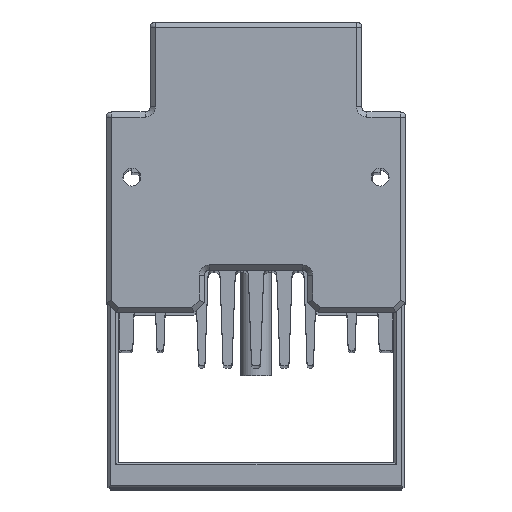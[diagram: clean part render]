
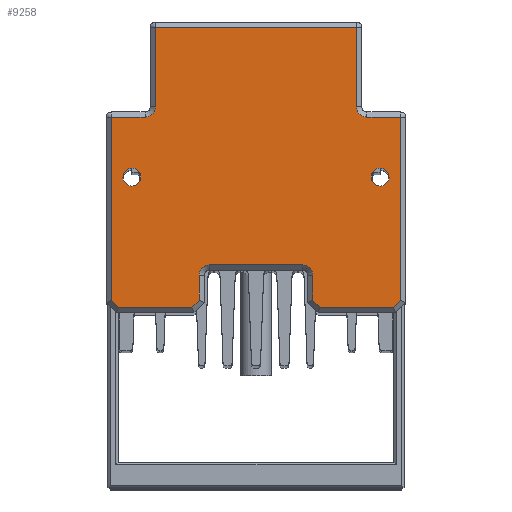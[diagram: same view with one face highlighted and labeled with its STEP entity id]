
A CAD part, top view. The second image highlights one B-rep face of the part: STEP entity #9258.
In plain terms, the highlighted planar face has unit normal (0, 0, 1).
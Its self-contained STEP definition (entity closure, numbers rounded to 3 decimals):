
#2973=DIRECTION('',(0.,1.,0.));
#2974=VECTOR('',#2973,15.4);
#2975=CARTESIAN_POINT('',(19.45,12.1,135.));
#2976=LINE('',#2975,#2974);
#2977=CARTESIAN_POINT('',(21.45,12.1,135.));
#2978=DIRECTION('',(0.,0.,-1.));
#2979=DIRECTION('',(0.,-1.,0.));
#2980=AXIS2_PLACEMENT_3D('',#2977,#2978,#2979);
#2982=DIRECTION('',(-1.,0.,0.));
#2983=VECTOR('',#2982,6.55);
#2984=CARTESIAN_POINT('',(28.,10.1,135.));
#2985=LINE('',#2984,#2983);
#2986=DIRECTION('',(0.,1.,0.));
#2987=VECTOR('',#2986,35.438);
#2988=CARTESIAN_POINT('',(28.,-25.338,135.));
#2989=LINE('',#2988,#2987);
#2990=DIRECTION('',(0.707,0.707,0.));
#2991=VECTOR('',#2990,2.);
#2992=CARTESIAN_POINT('',(26.586,-26.753,135.));
#2993=LINE('',#2992,#2991);
#2994=DIRECTION('',(1.,0.,0.));
#2995=VECTOR('',#2994,14.172);
#2996=CARTESIAN_POINT('',(12.414,-26.753,135.));
#2997=LINE('',#2996,#2995);
#2998=DIRECTION('',(0.707,-0.707,0.));
#2999=VECTOR('',#2998,2.);
#3000=CARTESIAN_POINT('',(11.,-25.338,135.));
#3001=LINE('',#3000,#2999);
#3002=DIRECTION('',(0.,-1.,0.));
#3003=VECTOR('',#3002,4.836);
#3004=CARTESIAN_POINT('',(11.,-20.503,135.));
#3005=LINE('',#3004,#3003);
#3006=CARTESIAN_POINT('',(9.,-20.503,135.));
#3007=DIRECTION('',(0.,0.,-1.));
#3008=DIRECTION('',(0.,1.,0.));
#3009=AXIS2_PLACEMENT_3D('',#3006,#3007,#3008);
#3011=DIRECTION('',(1.,0.,0.));
#3012=VECTOR('',#3011,18.);
#3013=CARTESIAN_POINT('',(-9.,-18.503,
135.));
#3014=LINE('',#3013,#3012);
#3015=CARTESIAN_POINT('',(-9.,-20.503,135.));
#3016=DIRECTION('',(0.,0.,-1.));
#3017=DIRECTION('',(-1.,0.,0.));
#3018=AXIS2_PLACEMENT_3D('',#3015,#3016,#3017);
#3020=DIRECTION('',(0.,1.,0.));
#3021=VECTOR('',#3020,4.836);
#3022=CARTESIAN_POINT('',(-11.,-25.338,135.));
#3023=LINE('',#3022,#3021);
#3024=DIRECTION('',(0.707,0.707,0.));
#3025=VECTOR('',#3024,2.);
#3026=CARTESIAN_POINT('',(-12.414,-26.753,135.));
#3027=LINE('',#3026,#3025);
#3028=DIRECTION('',(1.,0.,0.));
#3029=VECTOR('',#3028,14.172);
#3030=CARTESIAN_POINT('',(-26.586,-26.753,135.));
#3031=LINE('',#3030,#3029);
#3032=DIRECTION('',(0.707,-0.707,0.));
#3033=VECTOR('',#3032,2.);
#3034=CARTESIAN_POINT('',(-28.,-25.338,135.));
#3035=LINE('',#3034,#3033);
#3036=DIRECTION('',(0.,-1.,0.));
#3037=VECTOR('',#3036,35.438);
#3038=CARTESIAN_POINT('',(-28.,10.1,135.));
#3039=LINE('',#3038,#3037);
#3040=DIRECTION('',(-1.,0.,0.));
#3041=VECTOR('',#3040,6.55);
#3042=CARTESIAN_POINT('',(-21.45,10.1,135.));
#3043=LINE('',#3042,#3041);
#3044=CARTESIAN_POINT('',(-21.45,12.1,135.));
#3045=DIRECTION('',(0.,0.,-1.));
#3046=DIRECTION('',(1.,0.,0.));
#3047=AXIS2_PLACEMENT_3D('',#3044,#3045,#3046);
#3049=DIRECTION('',(0.,-1.,0.));
#3050=VECTOR('',#3049,15.4);
#3051=CARTESIAN_POINT('',(-19.45,27.5,135.));
#3052=LINE('',#3051,#3050);
#3053=DIRECTION('',(-1.,0.,0.));
#3054=VECTOR('',#3053,38.899);
#3055=CARTESIAN_POINT('',(19.45,27.5,135.));
#3056=LINE('',#3055,#3054);
#3057=CARTESIAN_POINT('',(-24.,-1.5,135.));
#3058=DIRECTION('',(0.,0.,1.));
#3059=DIRECTION('',(-1.,0.,0.));
#3060=AXIS2_PLACEMENT_3D('',#3057,#3058,#3059);
#3062=CARTESIAN_POINT('',(-24.,-1.5,135.));
#3063=DIRECTION('',(0.,0.,1.));
#3064=DIRECTION('',(1.,0.,0.));
#3065=AXIS2_PLACEMENT_3D('',#3062,#3063,#3064);
#3067=CARTESIAN_POINT('',(24.,-1.5,135.));
#3068=DIRECTION('',(0.,0.,1.));
#3069=DIRECTION('',(-1.,0.,0.));
#3070=AXIS2_PLACEMENT_3D('',#3067,#3068,#3069);
#3072=CARTESIAN_POINT('',(24.,-1.5,135.));
#3073=DIRECTION('',(0.,0.,1.));
#3074=DIRECTION('',(1.,0.,0.));
#3075=AXIS2_PLACEMENT_3D('',#3072,#3073,#3074);
#4286=CARTESIAN_POINT('',(19.45,12.1,135.));
#4287=CARTESIAN_POINT('',(19.45,27.5,135.));
#4288=VERTEX_POINT('',#4286);
#4289=VERTEX_POINT('',#4287);
#4292=CARTESIAN_POINT('',(21.45,10.1,135.));
#4293=VERTEX_POINT('',#4292);
#4296=CARTESIAN_POINT('',(28.,10.1,135.));
#4297=VERTEX_POINT('',#4296);
#4302=CARTESIAN_POINT('',(28.,-25.338,135.));
#4303=VERTEX_POINT('',#4302);
#4308=CARTESIAN_POINT('',(26.586,-26.753,135.));
#4309=VERTEX_POINT('',#4308);
#4312=CARTESIAN_POINT('',(12.414,-26.753,135.));
#4313=VERTEX_POINT('',#4312);
#4316=CARTESIAN_POINT('',(11.,-25.338,135.));
#4317=VERTEX_POINT('',#4316);
#4320=CARTESIAN_POINT('',(11.,-20.503,135.));
#4321=VERTEX_POINT('',#4320);
#4322=CARTESIAN_POINT('',(9.,-18.503,135.));
#4323=VERTEX_POINT('',#4322);
#4326=CARTESIAN_POINT('',(-9.,-18.503,
135.));
#4327=VERTEX_POINT('',#4326);
#4330=CARTESIAN_POINT('',(-11.,-20.503,135.));
#4331=VERTEX_POINT('',#4330);
#4334=CARTESIAN_POINT('',(-11.,-25.338,135.));
#4335=VERTEX_POINT('',#4334);
#4340=CARTESIAN_POINT('',(-12.414,-26.753,135.));
#4341=VERTEX_POINT('',#4340);
#4344=CARTESIAN_POINT('',(-26.586,-26.753,135.));
#4345=VERTEX_POINT('',#4344);
#4348=CARTESIAN_POINT('',(-28.,-25.338,135.));
#4349=VERTEX_POINT('',#4348);
#4350=CARTESIAN_POINT('',(-19.45,27.5,135.));
#4351=VERTEX_POINT('',#4350);
#4356=CARTESIAN_POINT('',(-19.45,12.1,135.));
#4357=VERTEX_POINT('',#4356);
#4360=CARTESIAN_POINT('',(-21.45,10.1,135.));
#4361=VERTEX_POINT('',#4360);
#4364=CARTESIAN_POINT('',(-28.,10.1,135.));
#4365=VERTEX_POINT('',#4364);
#4378=CARTESIAN_POINT('',(-25.75,-1.5,135.));
#4379=CARTESIAN_POINT('',(-22.25,-1.5,135.));
#4380=VERTEX_POINT('',#4378);
#4381=VERTEX_POINT('',#4379);
#4384=CARTESIAN_POINT('',(22.25,-1.5,135.));
#4385=CARTESIAN_POINT('',(25.75,-1.5,135.));
#4386=VERTEX_POINT('',#4384);
#4387=VERTEX_POINT('',#4385);
#9201=CARTESIAN_POINT('',(0.,0.,135.));
#9202=DIRECTION('',(0.,0.,1.));
#9203=DIRECTION('',(1.,0.,0.));
#9204=AXIS2_PLACEMENT_3D('',#9201,#9202,#9203);
#9205=PLANE('',#9204);
#9207=ORIENTED_EDGE('',*,*,#9206,.F.);
#9209=ORIENTED_EDGE('',*,*,#9208,.F.);
#9211=ORIENTED_EDGE('',*,*,#9210,.F.);
#9213=ORIENTED_EDGE('',*,*,#9212,.F.);
#9215=ORIENTED_EDGE('',*,*,#9214,.F.);
#9216=ORIENTED_EDGE('',*,*,#5245,.F.);
#9218=ORIENTED_EDGE('',*,*,#9217,.F.);
#9220=ORIENTED_EDGE('',*,*,#9219,.F.);
#9222=ORIENTED_EDGE('',*,*,#9221,.F.);
#9224=ORIENTED_EDGE('',*,*,#9223,.F.);
#9226=ORIENTED_EDGE('',*,*,#9225,.F.);
#9228=ORIENTED_EDGE('',*,*,#9227,.F.);
#9230=ORIENTED_EDGE('',*,*,#9229,.F.);
#9232=ORIENTED_EDGE('',*,*,#9231,.F.);
#9234=ORIENTED_EDGE('',*,*,#9233,.F.);
#9236=ORIENTED_EDGE('',*,*,#9235,.F.);
#9237=ORIENTED_EDGE('',*,*,#9192,.F.);
#9239=ORIENTED_EDGE('',*,*,#9238,.F.);
#9241=ORIENTED_EDGE('',*,*,#9240,.F.);
#9243=ORIENTED_EDGE('',*,*,#9242,.F.);
#9244=EDGE_LOOP('',(#9207,#9209,#9211,#9213,#9215,#9216,#9218,#9220,#9222,#9224,
#9226,#9228,#9230,#9232,#9234,#9236,#9237,#9239,#9241,#9243));
#9245=FACE_OUTER_BOUND('',#9244,.F.);
#9247=ORIENTED_EDGE('',*,*,#9246,.T.);
#9249=ORIENTED_EDGE('',*,*,#9248,.T.);
#9250=EDGE_LOOP('',(#9247,#9249));
#9251=FACE_BOUND('',#9250,.F.);
#9253=ORIENTED_EDGE('',*,*,#9252,.T.);
#9255=ORIENTED_EDGE('',*,*,#9254,.T.);
#9256=EDGE_LOOP('',(#9253,#9255));
#9257=FACE_BOUND('',#9256,.F.);
#2981=CIRCLE('',#2980,2.);
#3010=CIRCLE('',#3009,2.);
#3019=CIRCLE('',#3018,2.);
#3048=CIRCLE('',#3047,2.);
#3061=CIRCLE('',#3060,1.75);
#3066=CIRCLE('',#3065,1.75);
#3071=CIRCLE('',#3070,1.75);
#3076=CIRCLE('',#3075,1.75);
#5245=EDGE_CURVE('',#4313,#4309,#2997,.T.);
#9192=EDGE_CURVE('',#4361,#4365,#3043,.T.);
#9206=EDGE_CURVE('',#4288,#4289,#2976,.T.);
#9208=EDGE_CURVE('',#4293,#4288,#2981,.T.);
#9210=EDGE_CURVE('',#4297,#4293,#2985,.T.);
#9212=EDGE_CURVE('',#4303,#4297,#2989,.T.);
#9214=EDGE_CURVE('',#4309,#4303,#2993,.T.);
#9217=EDGE_CURVE('',#4317,#4313,#3001,.T.);
#9219=EDGE_CURVE('',#4321,#4317,#3005,.T.);
#9221=EDGE_CURVE('',#4323,#4321,#3010,.T.);
#9223=EDGE_CURVE('',#4327,#4323,#3014,.T.);
#9225=EDGE_CURVE('',#4331,#4327,#3019,.T.);
#9227=EDGE_CURVE('',#4335,#4331,#3023,.T.);
#9229=EDGE_CURVE('',#4341,#4335,#3027,.T.);
#9231=EDGE_CURVE('',#4345,#4341,#3031,.T.);
#9233=EDGE_CURVE('',#4349,#4345,#3035,.T.);
#9235=EDGE_CURVE('',#4365,#4349,#3039,.T.);
#9238=EDGE_CURVE('',#4357,#4361,#3048,.T.);
#9240=EDGE_CURVE('',#4351,#4357,#3052,.T.);
#9242=EDGE_CURVE('',#4289,#4351,#3056,.T.);
#9246=EDGE_CURVE('',#4380,#4381,#3061,.T.);
#9248=EDGE_CURVE('',#4381,#4380,#3066,.T.);
#9252=EDGE_CURVE('',#4386,#4387,#3071,.T.);
#9254=EDGE_CURVE('',#4387,#4386,#3076,.T.);
#9258=ADVANCED_FACE('',(#9245,#9251,#9257),#9205,.T.);
